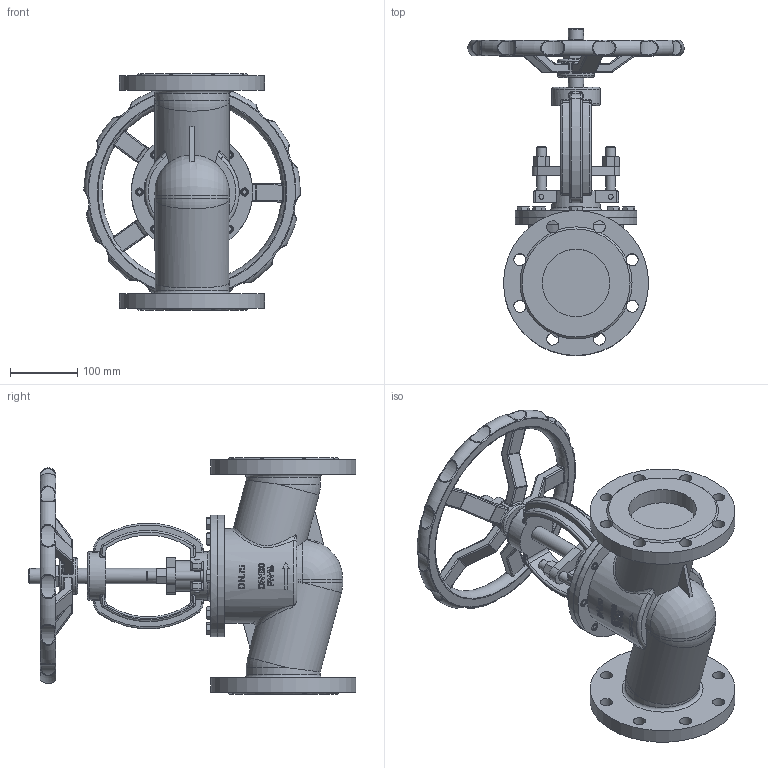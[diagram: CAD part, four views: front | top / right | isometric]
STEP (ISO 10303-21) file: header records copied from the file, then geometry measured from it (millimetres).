
FILE_DESCRIPTION(('STEP AP203'), '1');
FILE_NAME('VSO3131M-F-S 孰囡囗 玎镱痦 DN.ru 捏100 畜16', '2026-04-16T21:10:37', ('R2D2'), (''), 'C3D Converter', 'C3D Toolkit', '');
FILE_SCHEMA(('CONFIG_CONTROL_DESIGN'));
Length unit declared in the file: millimetre
Products named in the file (1): VSO3131M-F-S
Bounding box: 320.56 x 485.34 x 350 mm (x, y, z)
Volume: 7009255.1 mm3; surface area: 595715.2 mm2
Topology: 1 solids, 1 shells, 1147 faces, 2748 edges, 1641 vertices
Faces by surface type: plane 353, cylinder 266, torus 159, extrusion 130, cone 93, bspline 74, sphere 72
Full cylindrical faces by diameter (mm): 7.2 x8, 10 x8, 12 x8, 14.4 x4, 16 x8, 16.2 x2, 18 x16, 22.5 x3, 27 x1, 29.25 x1, 45 x1, 54 x1, 72 x2, 100 x2, 110 x4, 140 x1, 180 x2, 215 x2
Entity records: 76443 total; most frequent: CARTESIAN_POINT 42378, ORIENTED_EDGE 5232, DIRECTION 4781, EDGE_CURVE 2616, AXIS2_PLACEMENT_3D 1910, VERTEX_POINT 1636, EDGE_LOOP 1364, FACE_BOUND 1201
